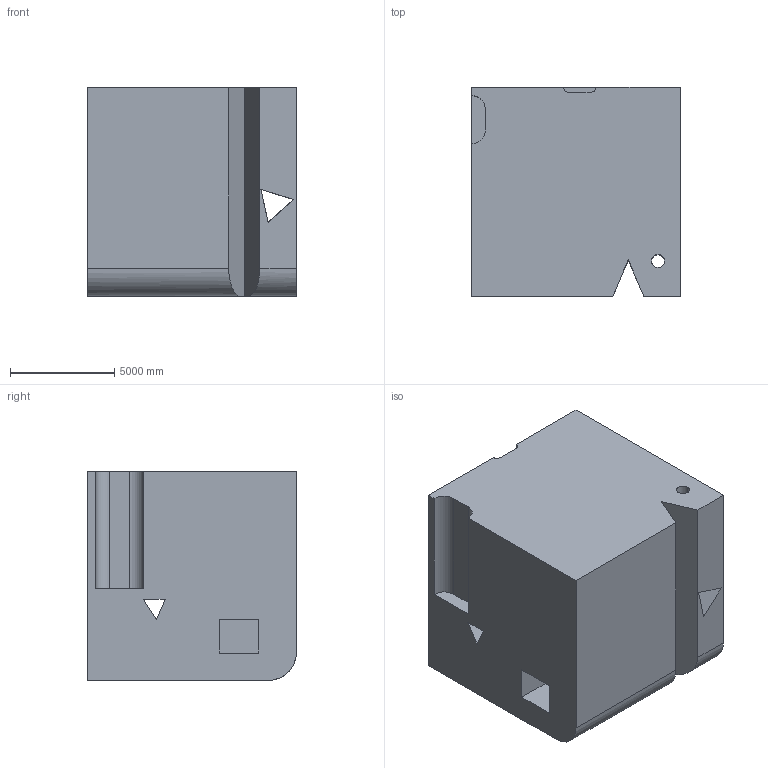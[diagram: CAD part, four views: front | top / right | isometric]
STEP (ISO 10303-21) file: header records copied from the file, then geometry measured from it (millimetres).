
FILE_DESCRIPTION (( 'STEP AP203' ), '1' );
FILE_NAME ('85.STEP', '2022-09-02T14:07:37', ( 'user' ), ( '' ), 'SwSTEP 2.0', 'SolidWorks 2021', '' );
FILE_SCHEMA (( 'CONFIG_CONTROL_DESIGN' ));
Length unit declared in the file: centimetre
Products named in the file (1): 85
Bounding box: 10000 x 10000 x 10000 mm (x, y, z)
Volume: 939142274777.9 mm3; surface area: 744141938.7 mm2
Topology: 1 solids, 1 shells, 37 faces, 111 edges, 74 vertices
Faces by surface type: plane 27, cylinder 10
Entity records: 1336 total; most frequent: CARTESIAN_POINT 247, ORIENTED_EDGE 222, DIRECTION 193, EDGE_CURVE 111, VECTOR 89, LINE 89, VERTEX_POINT 74, AXIS2_PLACEMENT_3D 52
